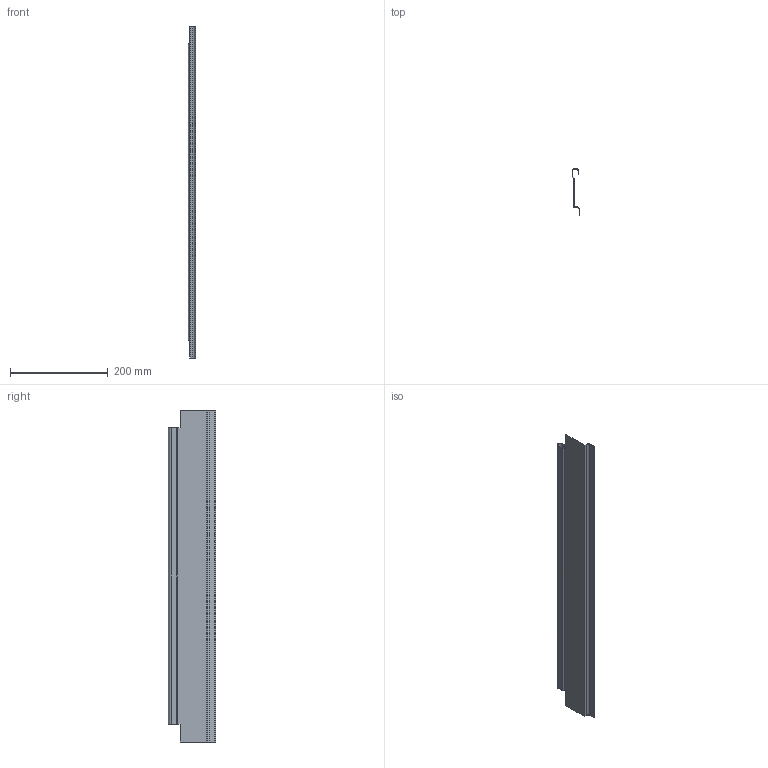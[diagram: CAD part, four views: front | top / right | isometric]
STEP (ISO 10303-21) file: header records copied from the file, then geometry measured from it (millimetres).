
FILE_DESCRIPTION (( 'STEP AP214' ), '1' );
FILE_NAME ('_Solowing NL710.step', '2010-07-14T13:32:00', ( 'grass' ), ( '' ), 'SwSTEP 2.0', 'SolidWorks 2010', '' );
FILE_SCHEMA (( 'AUTOMOTIVE_DESIGN' ));
Length unit declared in the file: millimetre
Products named in the file (1): _Solowing NL710
Bounding box: 16.3 x 96 x 678 mm (x, y, z)
Volume: 64615 mm3; surface area: 162820.5 mm2
Topology: 1 solids, 1 shells, 46 faces, 108 edges, 64 vertices
Faces by surface type: plane 36, cylinder 10
Entity records: 1314 total; most frequent: DIRECTION 222, CARTESIAN_POINT 219, ORIENTED_EDGE 216, EDGE_CURVE 108, LINE 88, VECTOR 88, AXIS2_PLACEMENT_3D 67, VERTEX_POINT 64
